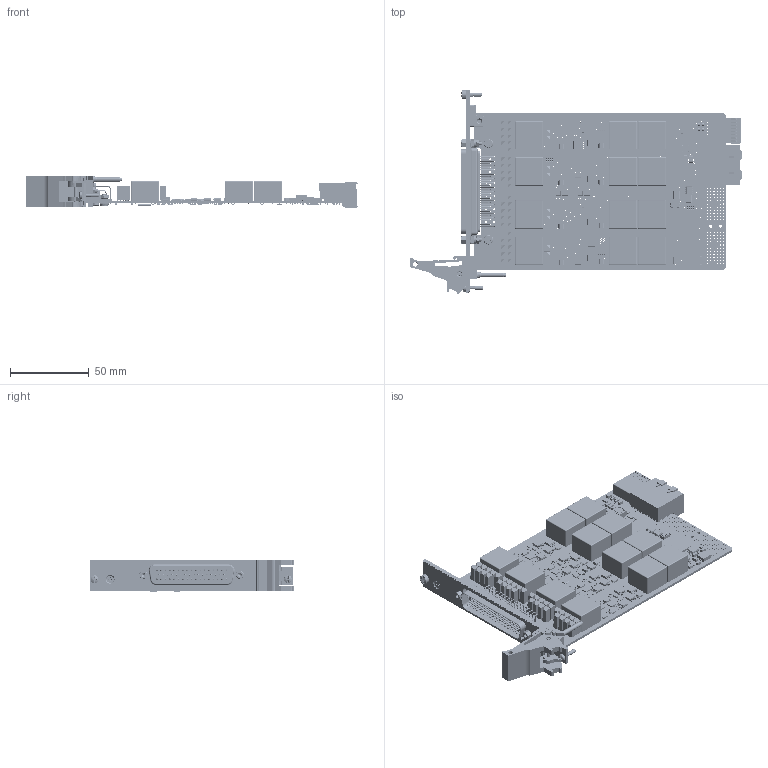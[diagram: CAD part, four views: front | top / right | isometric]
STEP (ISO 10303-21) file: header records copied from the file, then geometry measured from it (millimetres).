
FILE_DESCRIPTION (( 'STEP AP214' ), '1' );
FILE_NAME ('43-670-001-030002 LVDT-RDVT-Res 4B 7.2VIP 4VOP.step', '2025-03-25T11:36:05', ( '' ), ( '' ), 'SwSTEP 2.0', 'SolidWorks 2023', '' );
FILE_SCHEMA (( 'AUTOMOTIVE_DESIGN' ));
Length unit declared in the file: millimetre
Products named in the file (125): C-IC-425 SOICN 8PIN SD; C-IC-458 LDO VOLTAGE REGULATOR 1.2V SOT; C-CN-073-SCREW 4-40 UNC Screwlock_5mm Hexagonal spacer; C-FP-968 FP PXI 1 SLOT 1X50x78 way D Screw Locks_Výchozí; C-IC-488 LTC1563-2 4TH ORDER; A-PC-1348-B-V05 LVDT simulator express; C-IC-545 General Purpose Amplifier 2 Circuit Rail-to-Rail 8-SOIC; C-IC-448 SOICN 8PIN SD I2C FeRAM; C-RS-729 RES 4R7 0603 SMT 1 250PPM; C-CN-859 D Connector Mounting Bracket; C-CP-099 CAP 0.1uF 16V 0402 SMT; C-CP-233 CAP 15pF 0402 50V C0G 10%; C-MS-803 BEAD 120R 0603 2A 0R05 25%; C-RS-635 RES 560R (0402) SMT; Z-FX-2001 FP Fixing - Bush + Screw; C-SC-026 NMOS FET ZVN3306F SOT23; C-SC-188 DIODE SUPER BARRIER 60V 0.9A; C-IC-426 32-Flash Memory Standard Serial NOR 32Mbit SPI WSOIC-8; C-RS-148 Res 1K 0603 1-16W 1% 100PPM; C-CP-212 CAP 1uF 0603 50V X7R; C-RS-1478 RES 240R 0402 0.063W 1% 200PPM; C-RS-1175 RES 10K 0402 0.063W 1% 100PPM; C-CP-106 CAPACITOR 1nF CERAMIC 0402 SMT; C-CP-096 Cap 100pF SMT 0402; C-CP-223 CAP 1uF 0402 6V3 X5R 10%; C-RS-152 Res 10K 0603 1-16W 1% 300PPM; C-CN-107-PIN; C-RS-147 Res 100R 0603 1-16W 1% 100PPM; C-BK-026 Bush Front Panel Mounting; C-CN-1071; C-FX-165 Handle Body; C-MS-1100 Audio Transformer Through Hole; C-CN-1422 PXIE XJ3 RA F TH SD ASSY; A-FP-968 PXI 1 SLT  1x50x78 Way D Front Panel Screw Locks +Label Assy; C-RS-1118 RES 0R068 0603 0.25W 1% 150PPM; C-CP-124 CAP 10nF CERAMIC SMT 0402; C-CP-122 CAP 47pF CERAMIC SMT 0603; A-FP-968-L1 PXI 1SLT 1x50x78 Way D FP Screw Locks Assy; C-CP-141 CAP 10UF 1206 35V X5R 10%; C-RS-480 RES 16K SMT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
Assembly tree (720 placements, depth 5):
  43-670-001-030002 LVDT-RDVT-Res 4B 7.2VIP 4VOP
    A-PC-1348-B-V05 LVDT simulator express
      A-PC-1348-B-# LVDT simulator express
        C-PC-1348 LVDT simulator PCB
        C-CP-099 CAP 0.1uF 16V 0402 SMT  x22
        C-RS-1476 RES 0R 0402 0.063W 1% 200PPM  x12
        C-IC-513 VTG 1.15V-5.5V 8-CH Bidirect Logic  x4
        C-IC-511 Digital Signal Processor  x4
        C-CP-194 CAP 100nF 0402 50V X5R 10%  x92
        C-CP-096 Cap 100pF SMT 0402  x12
        C-RS-148 Res 1K 0603 1-16W 1% 100PPM  x2
        C-CN-1071  x5
          C-CN-107-BODY
          C-CN-107-PIN
        C-CP-212 CAP 1uF 0603 50V X7R  x2
        C-IC-537 IC REG MULTI CONFG ADJ
        C-RS-1501 RES 360K 0603 0.1W 1% 100PPM
        C-RS-1500 RES 240K 0603 0.1W 1% 100PPM
        C-RS-1152 RES 20K5 0603 0.063W 1% 100PPM
        C-RS-613 Res 226K (0603) SMT
        C-RS-1183 RES 84K5 0603 0.1W 0.1% 25PPM
        C-MS-1098 INDUCT ARRAY 2 COIL 100UH SMD
        C-SC-188 DIODE SUPER BARRIER 60V 0.9A
        C-CP-145 CAP 2.2uF 1206 50V X7R 10%  x3
        C-CP-122 CAP 47pF CERAMIC SMT 0603
        C-CP-187 CAP 0603 3.9nF 50V X7R 10%
        C-CP-161 CAP 220nF 0603 25V X7R 10%
        C-RS-152 Res 10K 0603 1-16W 1% 300PPM  x2
        C-CP-141 CAP 10UF 1206 35V X5R 10%  x5
        C-CN-1116 40 WAY PXIE XJ4 TYPE B8 RA F
          C-CN-1116-Body 40 WAY PXIE XJ4 TYPE B8 RA F
          C-CN-1116-Shield 40 WAY PXIE XJ4 TYPE B8 RA F
        C-CN-1422 PXIE XJ3 RA F TH SD ASSY
          C-CN-1422-BODY PXIE XJ3 RA F TH SD
        C-IC-497 High Accuracy 3V to 17V Step Down Converter
        C-IC-458 LDO VOLTAGE REGULATOR 1.2V SOT
        C-RS-490 Res 0603 82K SMT
        C-RS-1247 RES 510K 0603 0.1W 1% 100PPM
        C-RS-256 Res 100K (0603) 1.16W 1% 100pp SMT
        C-MS-803 BEAD 120R 0603 2A 0R05 25%  x4
        C-MS-1069 Shielded Power Inductor
        C-CP-175 CAP 22uF 1206 25V X5R 10%  x7
        C-CP-131 CAP 3.3nF CERAMIC SMT 0402
        C-CP-124 CAP 10nF CERAMIC SMT 0402  x20
        C-CP-110 CAP 0603 X7R 100nF SMT  x3
        C-CP-134 CAP 1uF CERAMIC SMT 0805  x4
        C-CP-130 CAP 1uF CERAMIC SMT 0603  x10
        C-CP-239  Power Line Filter  x2
        C-CP-034  x8
        C-RS-529 RES 10R 0603 1-16W 1% 100PPM  x4
        C-SC-026 NMOS FET ZVN3306F SOT23  x8
        C-IC-344 IC Fixed LDO Voltage Regulator  SOIC-8
        C-IC-378 Zero Drift Op-Amp  x10
        C-IC-510 REF6130  x2
        C-RS-637 RES 20K (0603) 1-16W 1% 100ppm  x2
        C-RS-636 RES 10K (0603) 1-16W 1% 100ppm  x2
        C-RS-1182 RES 30K 0603 0.1W 0.1% 25PPM  x6
        C-RS-1118 RES 0R068 0603 0.25W 1% 150PPM  x2
        C-CP-229 CAP 10uF 0402 6V3 X5R 20%  x2
        C-CP-218 CAP 10UF 0603 10V X5R 20%  x22
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Bounding box: 210.75 x 129.63 x 20.79 mm (x, y, z)
Volume: 110138.6 mm3; surface area: 101909.9 mm2
Topology: 852 solids, 879 shells, 40183 faces, 101164 edges, 64456 vertices
Faces by surface type: plane 27306, cylinder 10991, torus 813, sphere 420, cone 357, bspline 296
Entity records: 589831 total; most frequent: CARTESIAN_POINT 91442, DIRECTION 79287, ORIENTED_EDGE 73408, EDGE_CURVE 36706, AXIS2_PLACEMENT_3D 28985, VERTEX_POINT 23787, LINE 21317, VECTOR 21317
